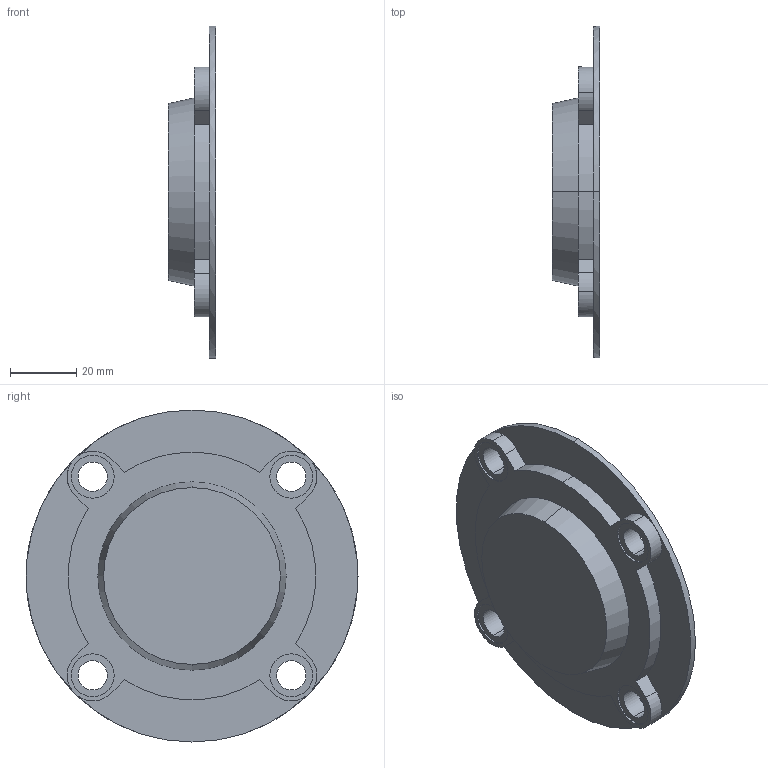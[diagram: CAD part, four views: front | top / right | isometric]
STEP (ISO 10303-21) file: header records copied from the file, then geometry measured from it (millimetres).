
FILE_DESCRIPTION (( 'STEP AP203' ), '1' );
FILE_NAME ('PESD050.STEP', '2022-01-12T05:21:08', ( 'Microsoft' ), ( 'Microsoft' ), 'SwSTEP 2.0', 'SolidWorks 2012', '' );
FILE_SCHEMA (( 'CONFIG_CONTROL_DESIGN' ));
Length unit declared in the file: millimetre
Products named in the file (1): PESD050
Bounding box: 14.5 x 100.5 x 100.5 mm (x, y, z)
Volume: 21823.6 mm3; surface area: 21377.8 mm2
Topology: 1 solids, 1 shells, 56 faces, 137 edges, 90 vertices
Faces by surface type: cylinder 31, plane 21, cone 4
Entity records: 1780 total; most frequent: DIRECTION 329, CARTESIAN_POINT 284, ORIENTED_EDGE 274, EDGE_CURVE 137, AXIS2_PLACEMENT_3D 135, VERTEX_POINT 90, CIRCLE 78, EDGE_LOOP 71
